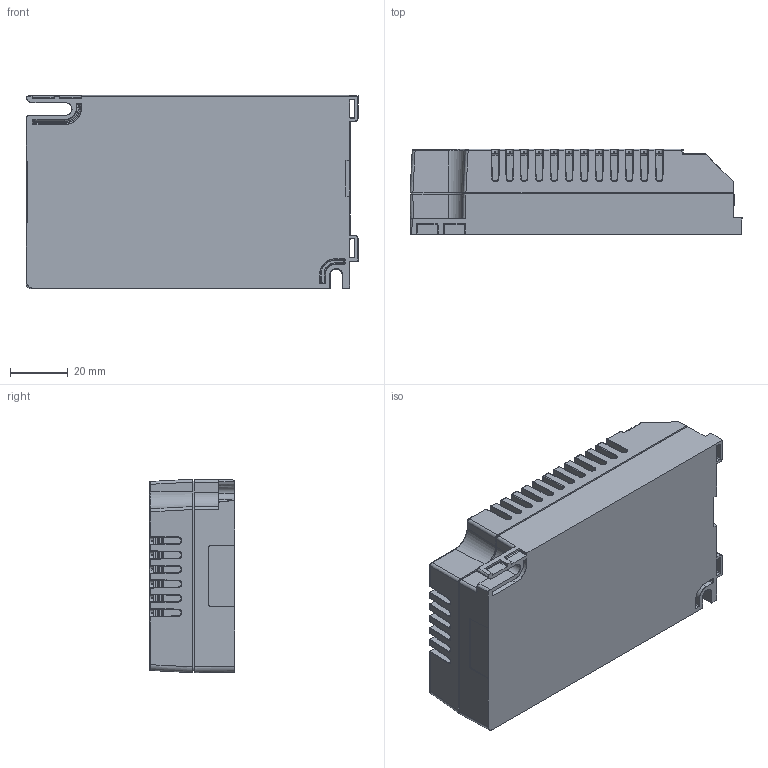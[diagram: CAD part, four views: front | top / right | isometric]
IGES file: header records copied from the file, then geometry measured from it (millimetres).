
Start section: SolidWorks IGES file using analytic representation for surfaces
Global section: file name: C:\Users\vuorinen_kari\Desktop\prj\P00010_LC_HYBRIDI\35_45W_KOTELO\Assembly.IGS; native system: SolidWorks 2014; preprocessor: SolidWorks 2014; author: vuorinen_kari; date: 180417.081611; units: millimetre
Bounding box: 115 x 29.5 x 67.03 mm (x, y, z)
Surface area: 68277.6 mm2 (no closed solid volume)
Topology: 0 solids, 0 shells, 1911 faces, 14898 edges, 14892 vertices
Faces by surface type: bspline 1018, revolution 893
